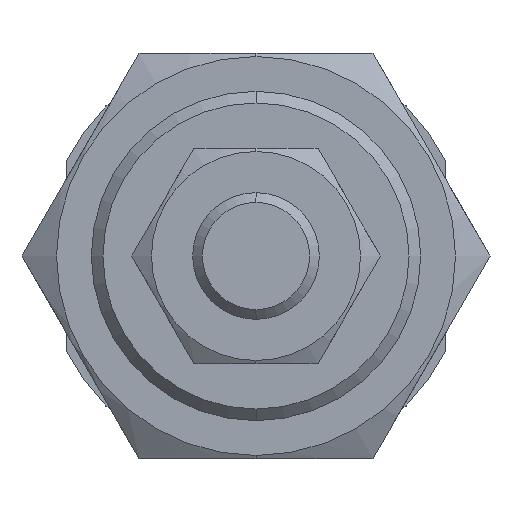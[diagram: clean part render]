
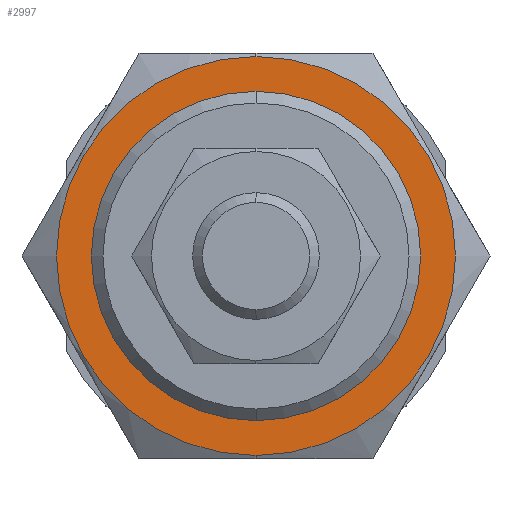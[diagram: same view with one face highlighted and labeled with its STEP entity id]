
A CAD part, left-side view. The second image highlights one B-rep face of the part: STEP entity #2997.
In plain terms, the highlighted planar face has unit normal (-1, 0, 0).
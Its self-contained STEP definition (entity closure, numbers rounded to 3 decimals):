
#36 = DIRECTION ( 'NONE',  ( 0., 0., -1. ) ) ;
#60 = AXIS2_PLACEMENT_3D ( 'NONE', #1324, #2631, #4264 ) ;
#342 = VERTEX_POINT ( 'NONE', #3575 ) ;
#460 = CARTESIAN_POINT ( 'NONE',  ( -11., 0., 0. ) ) ;
#633 = AXIS2_PLACEMENT_3D ( 'NONE', #4992, #5367, #2579 ) ;
#810 = DIRECTION ( 'NONE',  ( 1., 0., 0. ) ) ;
#823 = EDGE_LOOP ( 'NONE', ( #4680, #2860 ) ) ;
#979 = PLANE ( 'NONE',  #60 ) ;
#1024 = DIRECTION ( 'NONE',  ( 0., 0., -1. ) ) ;
#1168 = CARTESIAN_POINT ( 'NONE',  ( -11., 0., 0. ) ) ;
#1174 = EDGE_CURVE ( 'NONE', #342, #1812, #2501, .T. ) ;
#1288 = CARTESIAN_POINT ( 'NONE',  ( -11., 0., -13. ) ) ;
#1324 = CARTESIAN_POINT ( 'NONE',  ( -11., 0., 0. ) ) ;
#1490 = EDGE_CURVE ( 'NONE', #4060, #2578, #2360, .T. ) ;
#1549 = AXIS2_PLACEMENT_3D ( 'NONE', #1168, #1894, #1024 ) ;
#1812 = VERTEX_POINT ( 'NONE', #4451 ) ;
#1894 = DIRECTION ( 'NONE',  ( 1., 0., 0. ) ) ;
#2360 = CIRCLE ( 'NONE', #4356, 13. ) ;
#2501 = CIRCLE ( 'NONE', #1549, 15.75 ) ;
#2551 = FACE_OUTER_BOUND ( 'NONE', #3377, .T. ) ;
#2578 = VERTEX_POINT ( 'NONE', #2885 ) ;
#2579 = DIRECTION ( 'NONE',  ( 0., 0., -1. ) ) ;
#2631 = DIRECTION ( 'NONE',  ( 1., 0., 0. ) ) ;
#2860 = ORIENTED_EDGE ( 'NONE', *, *, #1490, .T. ) ;
#2885 = CARTESIAN_POINT ( 'NONE',  ( -11., 0., 13. ) ) ;
#2918 = EDGE_CURVE ( 'NONE', #1812, #342, #5262, .T. ) ;
#2973 = ORIENTED_EDGE ( 'NONE', *, *, #1174, .F. ) ;
#2997 = ADVANCED_FACE ( 'NONE', ( #2551, #3042 ), #979, .F. ) ;
#3042 = FACE_BOUND ( 'NONE', #823, .T. ) ;
#3377 = EDGE_LOOP ( 'NONE', ( #3674, #2973 ) ) ;
#3575 = CARTESIAN_POINT ( 'NONE',  ( -11., 0., 15.75 ) ) ;
#3674 = ORIENTED_EDGE ( 'NONE', *, *, #2918, .F. ) ;
#3705 = EDGE_CURVE ( 'NONE', #2578, #4060, #5052, .T. ) ;
#3759 = CARTESIAN_POINT ( 'NONE',  ( -11., 0., 0. ) ) ;
#3784 = DIRECTION ( 'NONE',  ( 1., 0., 0. ) ) ;
#4060 = VERTEX_POINT ( 'NONE', #1288 ) ;
#4096 = DIRECTION ( 'NONE',  ( 0., 0., -1. ) ) ;
#4264 = DIRECTION ( 'NONE',  ( 0., 1., 0. ) ) ;
#4356 = AXIS2_PLACEMENT_3D ( 'NONE', #3759, #3784, #36 ) ;
#4451 = CARTESIAN_POINT ( 'NONE',  ( -11., 0., -15.75 ) ) ;
#4487 = AXIS2_PLACEMENT_3D ( 'NONE', #460, #810, #4096 ) ;
#4680 = ORIENTED_EDGE ( 'NONE', *, *, #3705, .T. ) ;
#4992 = CARTESIAN_POINT ( 'NONE',  ( -11., 0., 0. ) ) ;
#5052 = CIRCLE ( 'NONE', #633, 13. ) ;
#5262 = CIRCLE ( 'NONE', #4487, 15.75 ) ;
#5367 = DIRECTION ( 'NONE',  ( 1., 0., 0. ) ) ;
